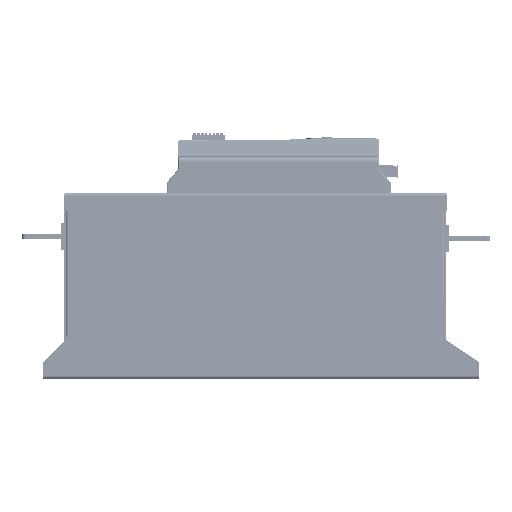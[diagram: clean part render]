
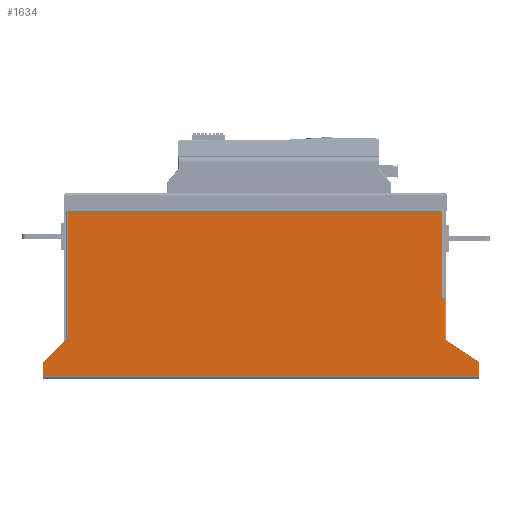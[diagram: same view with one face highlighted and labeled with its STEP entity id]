
A CAD part, left-side view. The second image highlights one B-rep face of the part: STEP entity #1634.
In plain terms, the highlighted planar face has unit normal (-1, 0, 0).
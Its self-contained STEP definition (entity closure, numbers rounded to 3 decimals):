
#1581 = VERTEX_POINT('',#1582);
#1582 = CARTESIAN_POINT('',(0.,-390.,2.4));
#1614 = VERTEX_POINT('',#1615);
#1615 = CARTESIAN_POINT('',(0.,0.,2.4));
#1624 = EDGE_CURVE('',#1614,#1581,#1625,.T.);
#1625 = LINE('',#1626,#1627);
#1626 = CARTESIAN_POINT('',(0.,0.,2.4));
#1627 = VECTOR('',#1628,1.);
#1628 = DIRECTION('',(0.,-1.,0.));
#1634 = ADVANCED_FACE('',(#1635),#1740,.T.);
#1635 = FACE_BOUND('',#1636,.F.);
#1636 = EDGE_LOOP('',(#1637,#1647,#1655,#1663,#1671,#1679,#1685,#1686,
    #1694,#1702,#1710,#1718,#1726,#1734));
#1637 = ORIENTED_EDGE('',*,*,#1638,.T.);
#1638 = EDGE_CURVE('',#1639,#1641,#1643,.T.);
#1639 = VERTEX_POINT('',#1640);
#1640 = CARTESIAN_POINT('',(0.,-345.6,150.));
#1641 = VERTEX_POINT('',#1642);
#1642 = CARTESIAN_POINT('',(0.,-357.6,150.));
#1643 = LINE('',#1644,#1645);
#1644 = CARTESIAN_POINT('',(0.,-345.6,150.));
#1645 = VECTOR('',#1646,1.);
#1646 = DIRECTION('',(0.,-1.,0.));
#1647 = ORIENTED_EDGE('',*,*,#1648,.F.);
#1648 = EDGE_CURVE('',#1649,#1641,#1651,.T.);
#1649 = VERTEX_POINT('',#1650);
#1650 = CARTESIAN_POINT('',(0.,-357.6,72.5));
#1651 = LINE('',#1652,#1653);
#1652 = CARTESIAN_POINT('',(0.,-357.6,72.5));
#1653 = VECTOR('',#1654,1.);
#1654 = DIRECTION('',(0.,0.,1.));
#1655 = ORIENTED_EDGE('',*,*,#1656,.F.);
#1656 = EDGE_CURVE('',#1657,#1649,#1659,.T.);
#1657 = VERTEX_POINT('',#1658);
#1658 = CARTESIAN_POINT('',(0.,-360.,72.5));
#1659 = LINE('',#1660,#1661);
#1660 = CARTESIAN_POINT('',(0.,-360.,72.5));
#1661 = VECTOR('',#1662,1.);
#1662 = DIRECTION('',(0.,1.,0.));
#1663 = ORIENTED_EDGE('',*,*,#1664,.F.);
#1664 = EDGE_CURVE('',#1665,#1657,#1667,.T.);
#1665 = VERTEX_POINT('',#1666);
#1666 = CARTESIAN_POINT('',(0.,-360.,35.));
#1667 = LINE('',#1668,#1669);
#1668 = CARTESIAN_POINT('',(0.,-360.,35.));
#1669 = VECTOR('',#1670,1.);
#1670 = DIRECTION('',(0.,0.,1.));
#1671 = ORIENTED_EDGE('',*,*,#1672,.T.);
#1672 = EDGE_CURVE('',#1665,#1673,#1675,.T.);
#1673 = VERTEX_POINT('',#1674);
#1674 = CARTESIAN_POINT('',(0.,-390.,15.));
#1675 = LINE('',#1676,#1677);
#1676 = CARTESIAN_POINT('',(0.,-360.,35.));
#1677 = VECTOR('',#1678,1.);
#1678 = DIRECTION('',(0.,-0.832,-0.555));
#1679 = ORIENTED_EDGE('',*,*,#1680,.T.);
#1680 = EDGE_CURVE('',#1673,#1581,#1681,.T.);
#1681 = LINE('',#1682,#1683);
#1682 = CARTESIAN_POINT('',(0.,-390.,15.));
#1683 = VECTOR('',#1684,1.);
#1684 = DIRECTION('',(0.,0.,-1.));
#1685 = ORIENTED_EDGE('',*,*,#1624,.F.);
#1686 = ORIENTED_EDGE('',*,*,#1687,.T.);
#1687 = EDGE_CURVE('',#1614,#1688,#1690,.T.);
#1688 = VERTEX_POINT('',#1689);
#1689 = CARTESIAN_POINT('',(0.,0.,15.));
#1690 = LINE('',#1691,#1692);
#1691 = CARTESIAN_POINT('',(0.,0.,2.4));
#1692 = VECTOR('',#1693,1.);
#1693 = DIRECTION('',(0.,0.,1.));
#1694 = ORIENTED_EDGE('',*,*,#1695,.T.);
#1695 = EDGE_CURVE('',#1688,#1696,#1698,.T.);
#1696 = VERTEX_POINT('',#1697);
#1697 = CARTESIAN_POINT('',(0.,-20.,35.));
#1698 = LINE('',#1699,#1700);
#1699 = CARTESIAN_POINT('',(0.,0.,15.));
#1700 = VECTOR('',#1701,1.);
#1701 = DIRECTION('',(0.,-0.707,0.707));
#1702 = ORIENTED_EDGE('',*,*,#1703,.T.);
#1703 = EDGE_CURVE('',#1696,#1704,#1706,.T.);
#1704 = VERTEX_POINT('',#1705);
#1705 = CARTESIAN_POINT('',(0.,-20.,37.));
#1706 = LINE('',#1707,#1708);
#1707 = CARTESIAN_POINT('',(0.,-20.,35.));
#1708 = VECTOR('',#1709,1.);
#1709 = DIRECTION('',(0.,0.,1.));
#1710 = ORIENTED_EDGE('',*,*,#1711,.F.);
#1711 = EDGE_CURVE('',#1712,#1704,#1714,.T.);
#1712 = VERTEX_POINT('',#1713);
#1713 = CARTESIAN_POINT('',(0.,-22.4,37.));
#1714 = LINE('',#1715,#1716);
#1715 = CARTESIAN_POINT('',(0.,-22.4,37.));
#1716 = VECTOR('',#1717,1.);
#1717 = DIRECTION('',(0.,1.,0.));
#1718 = ORIENTED_EDGE('',*,*,#1719,.F.);
#1719 = EDGE_CURVE('',#1720,#1712,#1722,.T.);
#1720 = VERTEX_POINT('',#1721);
#1721 = CARTESIAN_POINT('',(0.,-22.4,150.));
#1722 = LINE('',#1723,#1724);
#1723 = CARTESIAN_POINT('',(0.,-22.4,150.));
#1724 = VECTOR('',#1725,1.);
#1725 = DIRECTION('',(0.,0.,-1.));
#1726 = ORIENTED_EDGE('',*,*,#1727,.T.);
#1727 = EDGE_CURVE('',#1720,#1728,#1730,.T.);
#1728 = VERTEX_POINT('',#1729);
#1729 = CARTESIAN_POINT('',(0.,-34.4,150.));
#1730 = LINE('',#1731,#1732);
#1731 = CARTESIAN_POINT('',(0.,-22.4,150.));
#1732 = VECTOR('',#1733,1.);
#1733 = DIRECTION('',(0.,-1.,0.));
#1734 = ORIENTED_EDGE('',*,*,#1735,.F.);
#1735 = EDGE_CURVE('',#1639,#1728,#1736,.T.);
#1736 = LINE('',#1737,#1738);
#1737 = CARTESIAN_POINT('',(0.,-345.6,150.));
#1738 = VECTOR('',#1739,1.);
#1739 = DIRECTION('',(0.,1.,0.));
#1740 = PLANE('',#1741);
#1741 = AXIS2_PLACEMENT_3D('',#1742,#1743,#1744);
#1742 = CARTESIAN_POINT('',(0.,-390.,0.));
#1743 = DIRECTION('',(-1.,0.,0.));
#1744 = DIRECTION('',(0.,-1.,0.));
